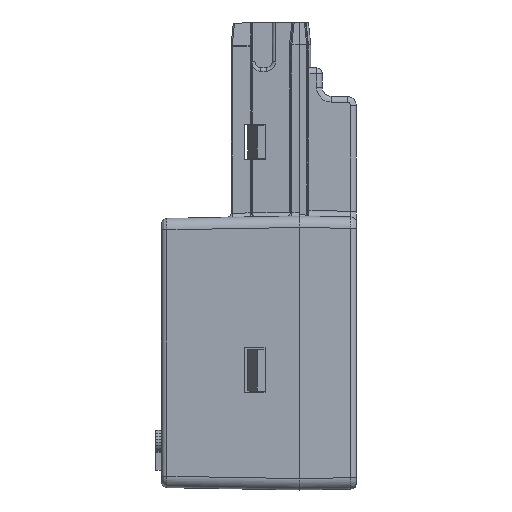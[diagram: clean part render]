
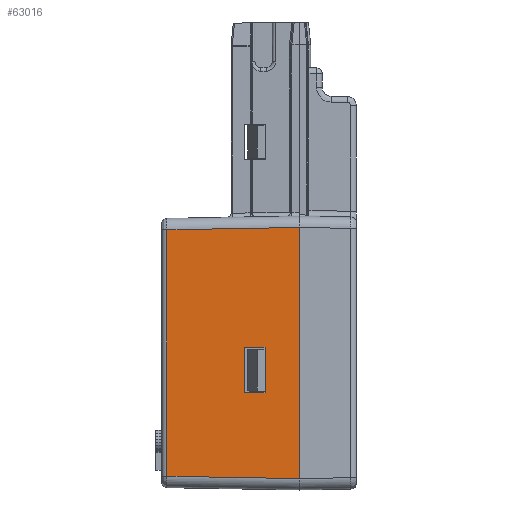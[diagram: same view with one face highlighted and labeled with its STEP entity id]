
A CAD part, left-side view. The second image highlights one B-rep face of the part: STEP entity #63016.
In plain terms, the highlighted planar face has unit normal (-1, 0.018, 0) as drawn and (1, 0.017, 0) by its records, which use the part's own axes.
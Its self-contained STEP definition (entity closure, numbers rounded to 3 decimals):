
#54814=DIRECTION('',(0.,0.,-1.));
#54815=VECTOR('',#54814,22.);
#54816=CARTESIAN_POINT('',(14.5,0.,25.));
#54817=LINE('',#54816,#54815);
#54824=CARTESIAN_POINT('',(14.5,0.,3.));
#56476=DIRECTION('',(0.,0.,-1.));
#56477=VECTOR('',#56476,4.);
#56478=CARTESIAN_POINT('',(14.448,3.,17.5));
#56479=LINE('',#56478,#56477);
#56488=DIRECTION('',(0.017,-1.,0.));
#56489=VECTOR('',#56488,1.8);
#56490=CARTESIAN_POINT('',(14.416,4.8,17.5));
#56491=LINE('',#56490,#56489);
#56560=DIRECTION('',(-0.017,1.,0.));
#56561=VECTOR('',#56560,1.8);
#56562=CARTESIAN_POINT('',(14.448,3.,13.5));
#56563=LINE('',#56562,#56561);
#56588=DIRECTION('',(0.,0.,1.));
#56589=VECTOR('',#56588,4.);
#56590=CARTESIAN_POINT('',(14.416,4.8,13.5));
#56591=LINE('',#56590,#56589);
#56592=DIRECTION('',(0.,0.,-1.));
#56593=VECTOR('',#56592,21.596);
#56594=CARTESIAN_POINT('',(14.298,11.589,24.798));
#56595=LINE('',#56594,#56593);
#56596=DIRECTION('',(0.017,-1.,-0.017));
#56597=VECTOR('',#56596,11.592);
#56598=CARTESIAN_POINT('',(14.298,11.589,3.202));
#56599=LINE('',#56598,#56597);
#56600=DIRECTION('',(0.017,-1.,0.017));
#56601=VECTOR('',#56600,11.592);
#56602=CARTESIAN_POINT('',(14.298,11.589,24.798));
#56603=LINE('',#56602,#56601);
#59248=CARTESIAN_POINT('',(14.448,3.,17.5));
#59249=VERTEX_POINT('',#59248);
#59252=CARTESIAN_POINT('',(14.448,3.,13.5));
#59253=VERTEX_POINT('',#59252);
#59256=CARTESIAN_POINT('',(14.416,4.8,13.5));
#59257=VERTEX_POINT('',#59256);
#59260=CARTESIAN_POINT('',(14.416,4.8,17.5));
#59261=VERTEX_POINT('',#59260);
#59289=VERTEX_POINT('',#54824);
#59290=CARTESIAN_POINT('',(14.5,0.,25.));
#59291=VERTEX_POINT('',#59290);
#59314=CARTESIAN_POINT('',(14.298,11.589,24.798));
#59315=CARTESIAN_POINT('',(14.298,11.589,3.202));
#59316=VERTEX_POINT('',#59314);
#59317=VERTEX_POINT('',#59315);
#62996=CARTESIAN_POINT('',(14.5,0.,27.663));
#62997=DIRECTION('',(1.,0.017,0.));
#62998=DIRECTION('',(0.,0.,1.));
#62999=AXIS2_PLACEMENT_3D('',#62996,#62997,#62998);
#63000=PLANE('',#62999);
#63002=ORIENTED_EDGE('',*,*,#63001,.T.);
#63004=ORIENTED_EDGE('',*,*,#63003,.T.);
#63005=ORIENTED_EDGE('',*,*,#60447,.F.);
#63007=ORIENTED_EDGE('',*,*,#63006,.F.);
#63008=EDGE_LOOP('',(#63002,#63004,#63005,#63007));
#63009=FACE_OUTER_BOUND('',#63008,.F.);
#63010=ORIENTED_EDGE('',*,*,#62834,.T.);
#63011=ORIENTED_EDGE('',*,*,#62944,.T.);
#63012=ORIENTED_EDGE('',*,*,#62991,.T.);
#63013=ORIENTED_EDGE('',*,*,#62860,.T.);
#63014=EDGE_LOOP('',(#63010,#63011,#63012,#63013));
#63015=FACE_BOUND('',#63014,.F.);
#63016=ADVANCED_FACE('',(#63009,#63015),#63000,.T.);
#60447=EDGE_CURVE('',#59291,#59289,#54817,.T.);
#62834=EDGE_CURVE('',#59249,#59253,#56479,.T.);
#62860=EDGE_CURVE('',#59261,#59249,#56491,.T.);
#62944=EDGE_CURVE('',#59253,#59257,#56563,.T.);
#62991=EDGE_CURVE('',#59257,#59261,#56591,.T.);
#63001=EDGE_CURVE('',#59316,#59317,#56595,.T.);
#63003=EDGE_CURVE('',#59317,#59289,#56599,.T.);
#63006=EDGE_CURVE('',#59316,#59291,#56603,.T.);
